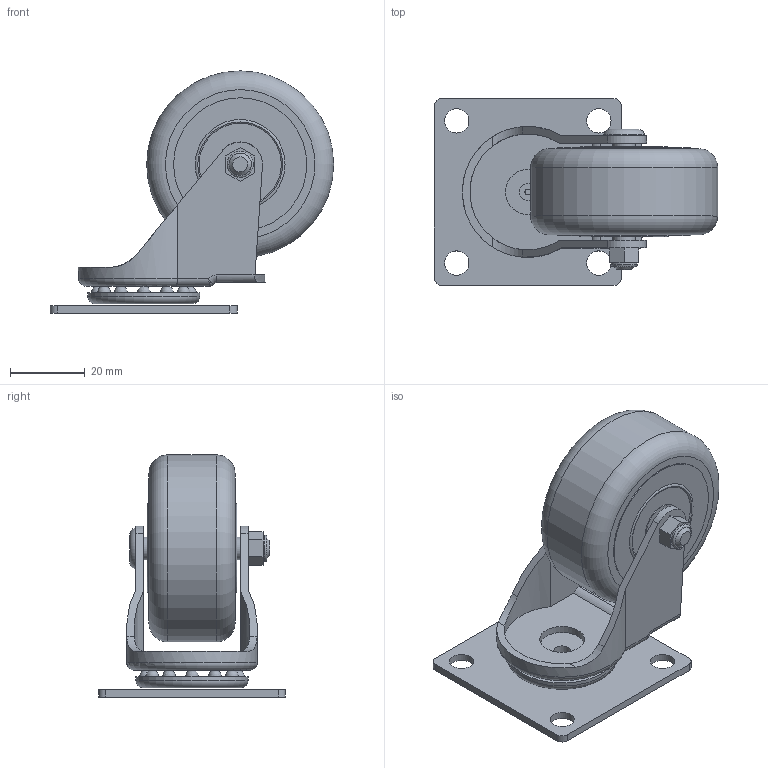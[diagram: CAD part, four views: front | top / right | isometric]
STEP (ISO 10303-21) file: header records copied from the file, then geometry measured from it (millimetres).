
FILE_DESCRIPTION(/* description */ (''),/* implementation_level */ '2;1');
FILE_NAME(/* name */ 'D:\cadd\new~產品型錄\輪子\GW-3AMPS-1.stp',/* time_stamp */ '2016-12-09T17:12:56+08:00',/* author */ ('Owner'),/* organization */ (''),/* preprocessor_version */ 'ST-DEVELOPER v15.2',/* originating_system */ 'Autodesk Inventor 2014',/* authorisation */ '');
FILE_SCHEMA (('AUTOMOTIVE_DESIGN { 1 0 10303 214 3 1 1 }'));
Length unit declared in the file: millimetre
Products named in the file (7): 1; 2; 4; 5; 6; 7; GW-3AMPS-1
Bounding box: 75.77 x 50 x 64.77 mm (x, y, z)
Volume: 56840.5 mm3; surface area: 22915 mm2
Topology: 18 solids, 18 shells, 120 faces, 279 edges, 183 vertices
Faces by surface type: plane 47, cylinder 41, torus 17, sphere 12, bspline 2, cone 1
Full cylindrical faces by diameter (mm): 1.548 x1, 4.472 x1, 6 x2, 6.5 x6, 7 x2, 12 x3, 21.125 x1, 28 x1, 30 x1, 35 x1, 35.609 x2, 39 x1, 50 x1
Entity records: 3310 total; most frequent: CARTESIAN_POINT 731, DIRECTION 561, ORIENTED_EDGE 396, AXIS2_PLACEMENT_3D 244, EDGE_CURVE 198, EDGE_LOOP 180, VERTEX_POINT 154, ADVANCED_FACE 120
